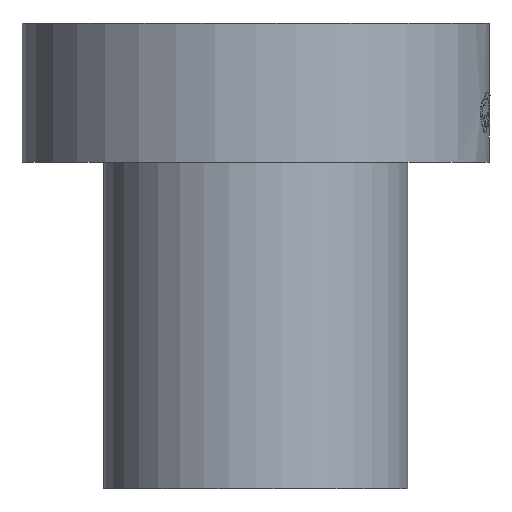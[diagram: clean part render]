
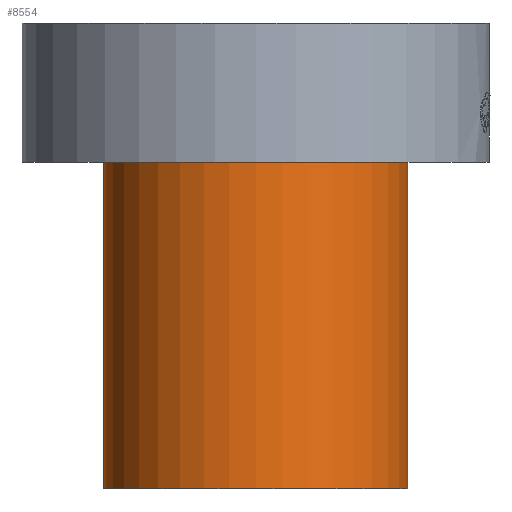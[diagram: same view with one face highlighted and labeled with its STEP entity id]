
A CAD part, front view. The second image highlights one B-rep face of the part: STEP entity #8554.
In plain terms, the highlighted cylindrical face has radius 2.58 mm (diameter 5.16 mm), a partial arc.
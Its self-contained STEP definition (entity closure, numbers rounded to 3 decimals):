
#144 = CARTESIAN_POINT ( 'NONE',  ( 0., 0., -5.53 ) ) ;
#395 = EDGE_LOOP ( 'NONE', ( #2980, #4077, #12264, #9449 ) ) ;
#954 = CIRCLE ( 'NONE', #4906, 2.58 ) ;
#1551 = VERTEX_POINT ( 'NONE', #11225 ) ;
#1571 = CYLINDRICAL_SURFACE ( 'NONE', #3660, 2.58 ) ;
#2243 = AXIS2_PLACEMENT_3D ( 'NONE', #8546, #6143, #10553 ) ;
#2723 = LINE ( 'NONE', #13550, #8124 ) ;
#2980 = ORIENTED_EDGE ( 'NONE', *, *, #11028, .F. ) ;
#3158 = CARTESIAN_POINT ( 'NONE',  ( -2.58, 0., -5.53 ) ) ;
#3660 = AXIS2_PLACEMENT_3D ( 'NONE', #8851, #5537, #7518 ) ;
#4077 = ORIENTED_EDGE ( 'NONE', *, *, #11760, .T. ) ;
#4856 = VERTEX_POINT ( 'NONE', #3158 ) ;
#4906 = AXIS2_PLACEMENT_3D ( 'NONE', #144, #9125, #7738 ) ;
#5537 = DIRECTION ( 'NONE',  ( 0., 0., 1. ) ) ;
#6143 = DIRECTION ( 'NONE',  ( 0., 0., 1. ) ) ;
#6708 = CARTESIAN_POINT ( 'NONE',  ( -2.58, 0., 0. ) ) ;
#7084 = FACE_OUTER_BOUND ( 'NONE', #395, .T. ) ;
#7247 = LINE ( 'NONE', #12861, #12667 ) ;
#7518 = DIRECTION ( 'NONE',  ( 1., 0., 0. ) ) ;
#7738 = DIRECTION ( 'NONE',  ( 1., 0., 0. ) ) ;
#8124 = VECTOR ( 'NONE', #13751, 1000. ) ;
#8534 = EDGE_CURVE ( 'NONE', #11746, #1551, #13059, .T. ) ;
#8546 = CARTESIAN_POINT ( 'NONE',  ( 0., 0., 0. ) ) ;
#8554 = ADVANCED_FACE ( 'NONE', ( #7084 ), #1571, .T. ) ;
#8851 = CARTESIAN_POINT ( 'NONE',  ( 0., 0., -5.53 ) ) ;
#9125 = DIRECTION ( 'NONE',  ( 0., 0., 1. ) ) ;
#9449 = ORIENTED_EDGE ( 'NONE', *, *, #8534, .F. ) ;
#10389 = EDGE_CURVE ( 'NONE', #10581, #1551, #7247, .T. ) ;
#10553 = DIRECTION ( 'NONE',  ( 1., 0., 0. ) ) ;
#10581 = VERTEX_POINT ( 'NONE', #13715 ) ;
#11028 = EDGE_CURVE ( 'NONE', #4856, #11746, #2723, .T. ) ;
#11225 = CARTESIAN_POINT ( 'NONE',  ( 2.58, 0., 0. ) ) ;
#11715 = DIRECTION ( 'NONE',  ( 0., 0., 1. ) ) ;
#11746 = VERTEX_POINT ( 'NONE', #6708 ) ;
#11760 = EDGE_CURVE ( 'NONE', #4856, #10581, #954, .T. ) ;
#12264 = ORIENTED_EDGE ( 'NONE', *, *, #10389, .T. ) ;
#12667 = VECTOR ( 'NONE', #11715, 1000. ) ;
#12861 = CARTESIAN_POINT ( 'NONE',  ( 2.58, 0., -5.53 ) ) ;
#13059 = CIRCLE ( 'NONE', #2243, 2.58 ) ;
#13550 = CARTESIAN_POINT ( 'NONE',  ( -2.58, 0., -5.53 ) ) ;
#13715 = CARTESIAN_POINT ( 'NONE',  ( 2.58, 0., -5.53 ) ) ;
#13751 = DIRECTION ( 'NONE',  ( 0., 0., 1. ) ) ;
